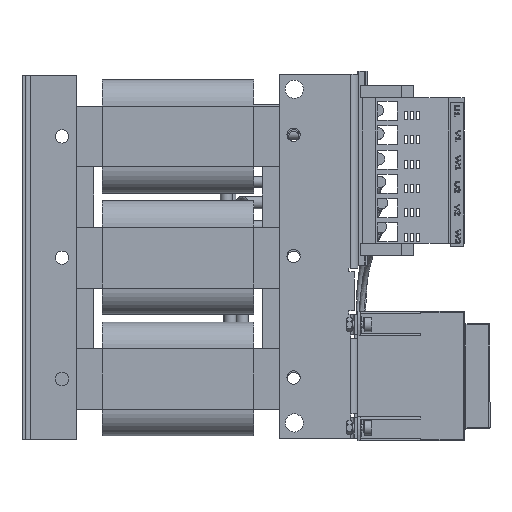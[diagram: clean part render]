
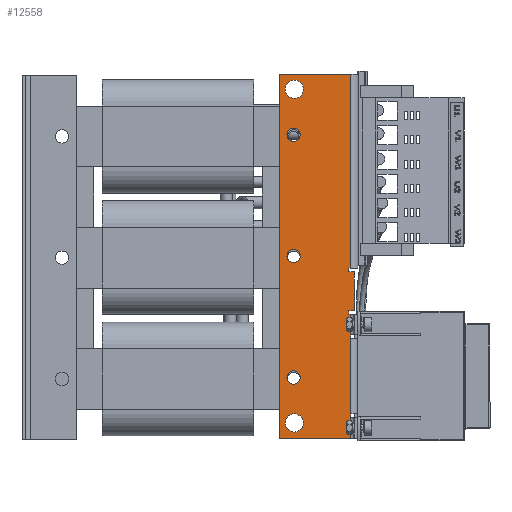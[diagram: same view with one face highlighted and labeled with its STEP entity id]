
A CAD part, left-side view. The second image highlights one B-rep face of the part: STEP entity #12558.
In plain terms, the highlighted planar face has unit normal (-1, 0, 0).
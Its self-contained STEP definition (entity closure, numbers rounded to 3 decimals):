
#12158=CARTESIAN_POINT('',(307.933,-230.505,-421.645));
#12159=VERTEX_POINT('',#12158);
#12167=CARTESIAN_POINT('',(307.933,-229.005,-421.645));
#12168=VERTEX_POINT('',#12167);
#12169=CARTESIAN_POINT('',(307.933,-230.505,-421.645));
#12170=DIRECTION('',(0.0,1.0,0.0));
#12171=VECTOR('',#12170,1.5);
#12172=LINE('',#12169,#12171);
#12173=EDGE_CURVE('',#12159,#12168,#12172,.T.);
#12293=CARTESIAN_POINT('',(307.933,-171.505,-261.645));
#12294=VERTEX_POINT('',#12293);
#12301=CARTESIAN_POINT('',(307.933,-230.505,-261.645));
#12302=VERTEX_POINT('',#12301);
#12303=CARTESIAN_POINT('',(307.933,-171.505,-261.645));
#12304=DIRECTION('',(0.0,-1.0,0.0));
#12305=VECTOR('',#12304,59.0);
#12306=LINE('',#12303,#12305);
#12307=EDGE_CURVE('',#12294,#12302,#12306,.T.);
#12335=CARTESIAN_POINT('',(307.933,-230.505,-261.645));
#12336=DIRECTION('',(0.0,0.0,-1.0));
#12337=VECTOR('',#12336,160.0);
#12338=LINE('',#12335,#12337);
#12339=EDGE_CURVE('',#12302,#12159,#12338,.T.);
#12362=CARTESIAN_POINT('',(307.933,-229.005,-424.645));
#12363=VERTEX_POINT('',#12362);
#12364=CARTESIAN_POINT('',(307.933,-229.005,-421.645));
#12365=DIRECTION('',(0.0,0.0,-1.0));
#12366=VECTOR('',#12365,3.0);
#12367=LINE('',#12364,#12366);
#12368=EDGE_CURVE('',#12168,#12363,#12367,.T.);
#12386=CARTESIAN_POINT('',(307.933,-233.505,-424.645));
#12387=VERTEX_POINT('',#12386);
#12388=CARTESIAN_POINT('',(307.933,-229.005,-424.645));
#12389=DIRECTION('',(0.0,-1.0,0.0));
#12390=VECTOR('',#12389,4.5);
#12391=LINE('',#12388,#12390);
#12392=EDGE_CURVE('',#12363,#12387,#12391,.T.);
#12405=CARTESIAN_POINT('',(307.933,-233.505,-411.645));
#12406=DIRECTION('',(1.0,0.0,0.0));
#12407=DIRECTION('',(0.0,0.0,-1.0));
#12408=AXIS2_PLACEMENT_3D('',#12405,#12406,#12407);
#12409=PLANE('',#12408);
#12410=ORIENTED_EDGE('',*,*,#12173,.F.);
#12411=ORIENTED_EDGE('',*,*,#12339,.F.);
#12412=ORIENTED_EDGE('',*,*,#12307,.F.);
#12413=CARTESIAN_POINT('',(307.933,-171.505,-561.645));
#12414=VERTEX_POINT('',#12413);
#12415=CARTESIAN_POINT('',(307.933,-171.505,-261.645));
#12416=DIRECTION('',(0.0,0.0,-1.0));
#12417=VECTOR('',#12416,300.0);
#12418=LINE('',#12415,#12417);
#12419=EDGE_CURVE('',#12294,#12414,#12418,.T.);
#12420=ORIENTED_EDGE('',*,*,#12419,.T.);
#12421=CARTESIAN_POINT('',(307.933,-230.505,-561.645));
#12422=VERTEX_POINT('',#12421);
#12423=CARTESIAN_POINT('',(307.933,-230.505,-561.645));
#12424=DIRECTION('',(0.0,1.0,0.0));
#12425=VECTOR('',#12424,59.0);
#12426=LINE('',#12423,#12425);
#12427=EDGE_CURVE('',#12422,#12414,#12426,.T.);
#12428=ORIENTED_EDGE('',*,*,#12427,.F.);
#12429=CARTESIAN_POINT('',(307.933,-230.505,-544.645));
#12430=VERTEX_POINT('',#12429);
#12431=CARTESIAN_POINT('',(307.933,-230.505,-544.645));
#12432=DIRECTION('',(0.0,0.0,-1.0));
#12433=VECTOR('',#12432,17.0);
#12434=LINE('',#12431,#12433);
#12435=EDGE_CURVE('',#12430,#12422,#12434,.T.);
#12436=ORIENTED_EDGE('',*,*,#12435,.F.);
#12437=CARTESIAN_POINT('',(307.933,-230.505,-541.645));
#12438=VERTEX_POINT('',#12437);
#12439=CARTESIAN_POINT('',(307.933,-230.505,-541.645));
#12440=DIRECTION('',(0.0,0.0,-1.0));
#12441=VECTOR('',#12440,3.0);
#12442=LINE('',#12439,#12441);
#12443=EDGE_CURVE('',#12438,#12430,#12442,.T.);
#12444=ORIENTED_EDGE('',*,*,#12443,.F.);
#12445=CARTESIAN_POINT('',(307.933,-230.505,-479.645));
#12446=VERTEX_POINT('',#12445);
#12447=CARTESIAN_POINT('',(307.933,-230.505,-479.645));
#12448=DIRECTION('',(0.0,0.0,-1.0));
#12449=VECTOR('',#12448,62.);
#12450=LINE('',#12447,#12449);
#12451=EDGE_CURVE('',#12446,#12438,#12450,.T.);
#12452=ORIENTED_EDGE('',*,*,#12451,.F.);
#12453=CARTESIAN_POINT('',(307.933,-230.505,-476.645));
#12454=VERTEX_POINT('',#12453);
#12455=CARTESIAN_POINT('',(307.933,-230.505,-476.645));
#12456=DIRECTION('',(0.0,0.0,-1.0));
#12457=VECTOR('',#12456,3.0);
#12458=LINE('',#12455,#12457);
#12459=EDGE_CURVE('',#12454,#12446,#12458,.T.);
#12460=ORIENTED_EDGE('',*,*,#12459,.F.);
#12461=CARTESIAN_POINT('',(307.933,-230.505,-459.645));
#12462=VERTEX_POINT('',#12461);
#12463=CARTESIAN_POINT('',(307.933,-230.505,-459.645));
#12464=DIRECTION('',(0.0,0.0,-1.0));
#12465=VECTOR('',#12464,17.);
#12466=LINE('',#12463,#12465);
#12467=EDGE_CURVE('',#12462,#12454,#12466,.T.);
#12468=ORIENTED_EDGE('',*,*,#12467,.F.);
#12469=CARTESIAN_POINT('',(307.933,-229.005,-459.645));
#12470=VERTEX_POINT('',#12469);
#12471=CARTESIAN_POINT('',(307.933,-229.005,-459.645));
#12472=DIRECTION('',(0.0,-1.0,0.0));
#12473=VECTOR('',#12472,1.5);
#12474=LINE('',#12471,#12473);
#12475=EDGE_CURVE('',#12470,#12462,#12474,.T.);
#12476=ORIENTED_EDGE('',*,*,#12475,.F.);
#12477=CARTESIAN_POINT('',(307.933,-229.005,-456.645));
#12478=VERTEX_POINT('',#12477);
#12479=CARTESIAN_POINT('',(307.933,-229.005,-456.645));
#12480=DIRECTION('',(0.0,0.0,-1.0));
#12481=VECTOR('',#12480,3.0);
#12482=LINE('',#12479,#12481);
#12483=EDGE_CURVE('',#12478,#12470,#12482,.T.);
#12484=ORIENTED_EDGE('',*,*,#12483,.F.);
#12485=CARTESIAN_POINT('',(307.933,-233.505,-456.645));
#12486=VERTEX_POINT('',#12485);
#12487=CARTESIAN_POINT('',(307.933,-233.505,-456.645));
#12488=DIRECTION('',(0.0,1.0,0.0));
#12489=VECTOR('',#12488,4.5);
#12490=LINE('',#12487,#12489);
#12491=EDGE_CURVE('',#12486,#12478,#12490,.T.);
#12492=ORIENTED_EDGE('',*,*,#12491,.F.);
#12493=CARTESIAN_POINT('',(307.933,-233.505,-424.645));
#12494=DIRECTION('',(0.0,0.0,-1.0));
#12495=VECTOR('',#12494,32.);
#12496=LINE('',#12493,#12495);
#12497=EDGE_CURVE('',#12387,#12486,#12496,.T.);
#12498=ORIENTED_EDGE('',*,*,#12497,.F.);
#12499=ORIENTED_EDGE('',*,*,#12392,.F.);
#12500=ORIENTED_EDGE('',*,*,#12368,.F.);
#12501=EDGE_LOOP('',(#12410,#12411,#12412,#12420,#12428,#12436,#12444,#12452,#12460,#12468,#12476,#12484,#12492,#12498,#12499,#12500));
#12502=FACE_OUTER_BOUND('',#12501,.T.);
#12503=CARTESIAN_POINT('',(307.933,-176.505,-549.145));
#12504=VERTEX_POINT('',#12503);
#12505=CARTESIAN_POINT('',(307.933,-184.005,-549.145));
#12506=DIRECTION('',(-1.0,0.0,0.0));
#12507=DIRECTION('',(0.0,1.0,0.0));
#12508=AXIS2_PLACEMENT_3D('',#12505,#12506,#12507);
#12509=CIRCLE('',#12508,7.5);
#12510=EDGE_CURVE('',#12504,#12504,#12509,.T.);
#12511=ORIENTED_EDGE('',*,*,#12510,.F.);
#12512=EDGE_LOOP('',(#12511));
#12513=FACE_BOUND('',#12512,.T.);
#12514=CARTESIAN_POINT('',(307.933,-176.505,-274.145));
#12515=VERTEX_POINT('',#12514);
#12516=CARTESIAN_POINT('',(307.933,-184.005,-274.145));
#12517=DIRECTION('',(-1.0,0.0,0.0));
#12518=DIRECTION('',(0.0,1.0,0.0));
#12519=AXIS2_PLACEMENT_3D('',#12516,#12517,#12518);
#12520=CIRCLE('',#12519,7.5);
#12521=EDGE_CURVE('',#12515,#12515,#12520,.T.);
#12522=ORIENTED_EDGE('',*,*,#12521,.F.);
#12523=EDGE_LOOP('',(#12522));
#12524=FACE_BOUND('',#12523,.T.);
#12525=CARTESIAN_POINT('',(307.933,-183.505,-517.145));
#12526=VERTEX_POINT('',#12525);
#12527=CARTESIAN_POINT('',(307.933,-183.505,-511.645));
#12528=DIRECTION('',(-1.0,0.0,0.0));
#12529=DIRECTION('',(0.0,0.0,1.0));
#12530=AXIS2_PLACEMENT_3D('',#12527,#12528,#12529);
#12531=CIRCLE('',#12530,5.5);
#12532=EDGE_CURVE('',#12526,#12526,#12531,.T.);
#12533=ORIENTED_EDGE('',*,*,#12532,.F.);
#12534=EDGE_LOOP('',(#12533));
#12535=FACE_BOUND('',#12534,.T.);
#12536=CARTESIAN_POINT('',(307.933,-183.505,-317.145));
#12537=VERTEX_POINT('',#12536);
#12538=CARTESIAN_POINT('',(307.933,-183.505,-311.645));
#12539=DIRECTION('',(-1.0,0.0,0.0));
#12540=DIRECTION('',(0.0,0.0,1.0));
#12541=AXIS2_PLACEMENT_3D('',#12538,#12539,#12540);
#12542=CIRCLE('',#12541,5.5);
#12543=EDGE_CURVE('',#12537,#12537,#12542,.T.);
#12544=ORIENTED_EDGE('',*,*,#12543,.F.);
#12545=EDGE_LOOP('',(#12544));
#12546=FACE_BOUND('',#12545,.T.);
#12547=CARTESIAN_POINT('',(307.933,-183.505,-417.145));
#12548=VERTEX_POINT('',#12547);
#12549=CARTESIAN_POINT('',(307.933,-183.505,-411.645));
#12550=DIRECTION('',(-1.0,0.0,0.0));
#12551=DIRECTION('',(0.0,0.0,1.0));
#12552=AXIS2_PLACEMENT_3D('',#12549,#12550,#12551);
#12553=CIRCLE('',#12552,5.5);
#12554=EDGE_CURVE('',#12548,#12548,#12553,.T.);
#12555=ORIENTED_EDGE('',*,*,#12554,.F.);
#12556=EDGE_LOOP('',(#12555));
#12557=FACE_BOUND('',#12556,.T.);
#12558=ADVANCED_FACE('',(#12502,#12513,#12524,#12535,#12546,#12557),#12409,.F.);
